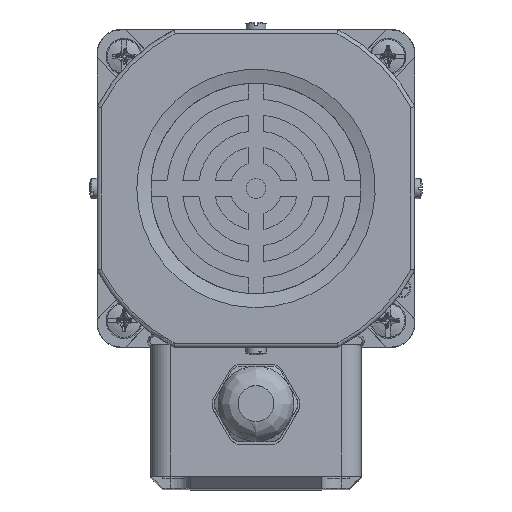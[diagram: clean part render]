
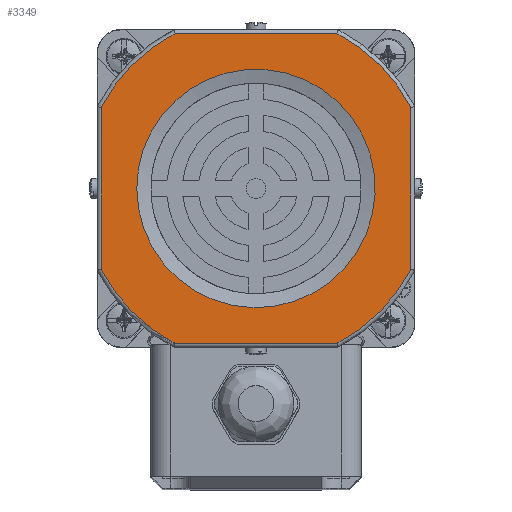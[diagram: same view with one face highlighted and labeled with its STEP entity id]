
A CAD part, left-side view. The second image highlights one B-rep face of the part: STEP entity #3349.
In plain terms, the highlighted planar face has unit normal (-1, 0, 0).
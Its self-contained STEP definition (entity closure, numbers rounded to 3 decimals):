
#2066=FACE_BOUND('',#5747,.T.);
#2067=FACE_BOUND('',#5748,.T.);
#3349=ADVANCED_FACE('',(#2066,#2067),#3758,.F.);
#3758=PLANE('',#18409);
#5747=EDGE_LOOP('',(#10384,#10385,#10386,#10387,#10388,#10389,#10390,#10391));
#5748=EDGE_LOOP('',(#10392));
#10384=ORIENTED_EDGE('',*,*,#14586,.T.);
#10385=ORIENTED_EDGE('',*,*,#14567,.T.);
#10386=ORIENTED_EDGE('',*,*,#14572,.T.);
#10387=ORIENTED_EDGE('',*,*,#14576,.T.);
#10388=ORIENTED_EDGE('',*,*,#14580,.T.);
#10389=ORIENTED_EDGE('',*,*,#14584,.T.);
#10390=ORIENTED_EDGE('',*,*,#14589,.T.);
#10391=ORIENTED_EDGE('',*,*,#14590,.T.);
#10392=ORIENTED_EDGE('',*,*,#14873,.T.);
#12254=VERTEX_POINT('',#32122);
#12255=VERTEX_POINT('',#32124);
#12257=VERTEX_POINT('',#32142);
#12259=VERTEX_POINT('',#32155);
#12261=VERTEX_POINT('',#32168);
#12263=VERTEX_POINT('',#32181);
#12264=VERTEX_POINT('',#32190);
#12265=VERTEX_POINT('',#32201);
#12440=VERTEX_POINT('',#36663);
#14567=EDGE_CURVE('',#12255,#12254,#17163,.T.);
#14572=EDGE_CURVE('',#12254,#12257,#15604,.T.);
#14576=EDGE_CURVE('',#12257,#12259,#17165,.T.);
#14580=EDGE_CURVE('',#12259,#12261,#15608,.T.);
#14584=EDGE_CURVE('',#12261,#12263,#17167,.T.);
#14586=EDGE_CURVE('',#12264,#12255,#15611,.T.);
#14589=EDGE_CURVE('',#12263,#12265,#15612,.T.);
#14590=EDGE_CURVE('',#12265,#12264,#17169,.T.);
#14873=EDGE_CURVE('',#12440,#12440,#17236,.T.);
#15604=LINE('',#32143,#16341);
#15608=LINE('',#32169,#16345);
#15611=LINE('',#32191,#16348);
#15612=LINE('',#32202,#16349);
#16341=VECTOR('',#20876,1.);
#16345=VECTOR('',#20892,1.);
#16348=VECTOR('',#20903,1.);
#16349=VECTOR('',#20910,1.);
#17163=CIRCLE('',#18213,44.);
#17165=CIRCLE('',#18219,44.);
#17167=CIRCLE('',#18225,44.);
#17169=CIRCLE('',#18231,44.);
#17236=CIRCLE('',#18407,30.);
#18213=AXIS2_PLACEMENT_3D('',#32123,#20867,#20868);
#18219=AXIS2_PLACEMENT_3D('',#32156,#20883,#20884);
#18225=AXIS2_PLACEMENT_3D('',#32182,#20899,#20900);
#18231=AXIS2_PLACEMENT_3D('',#32204,#20913,#20914);
#18407=AXIS2_PLACEMENT_3D('',#36662,#21361,#21362);
#18409=AXIS2_PLACEMENT_3D('',#36665,#21365,#21366);
#20867=DIRECTION('',(-1.,0.,0.));
#20868=DIRECTION('',(0.,0.,-1.));
#20876=DIRECTION('',(0.,0.,-1.));
#20883=DIRECTION('',(-1.,0.,0.));
#20884=DIRECTION('',(0.,0.,-1.));
#20892=DIRECTION('',(0.,-1.,0.));
#20899=DIRECTION('',(-1.,0.,0.));
#20900=DIRECTION('',(0.,0.,-1.));
#20903=DIRECTION('',(0.,1.,0.));
#20910=DIRECTION('',(0.,0.,1.));
#20913=DIRECTION('',(-1.,0.,0.));
#20914=DIRECTION('',(0.,0.,-1.));
#21361=DIRECTION('',(1.,0.,0.));
#21362=DIRECTION('',(0.,1.,0.));
#21365=DIRECTION('',(1.,0.,0.));
#21366=DIRECTION('',(0.,0.,-1.));
#32122=CARTESIAN_POINT('',(-102.,79.,60.372));
#32123=CARTESIAN_POINT('',(-102.,40.,40.));
#32124=CARTESIAN_POINT('',(-102.,60.372,79.));
#32142=CARTESIAN_POINT('',(-102.,79.,19.628));
#32143=CARTESIAN_POINT('',(-102.,79.,19.384));
#32155=CARTESIAN_POINT('',(-102.,60.372,1.));
#32156=CARTESIAN_POINT('',(-102.,40.,40.));
#32168=CARTESIAN_POINT('',(-102.,19.628,1.));
#32169=CARTESIAN_POINT('',(-102.,19.384,1.));
#32181=CARTESIAN_POINT('',(-102.,1.,19.628));
#32182=CARTESIAN_POINT('',(-102.,40.,40.));
#32190=CARTESIAN_POINT('',(-102.,19.628,79.));
#32191=CARTESIAN_POINT('',(-102.,60.616,79.));
#32201=CARTESIAN_POINT('',(-102.,1.,60.372));
#32202=CARTESIAN_POINT('',(-102.,1.,60.616));
#32204=CARTESIAN_POINT('',(-102.,40.,40.));
#36662=CARTESIAN_POINT('',(-102.,40.,40.));
#36663=CARTESIAN_POINT('',(-102.,70.,40.));
#36665=CARTESIAN_POINT('',(-102.,40.,40.));
